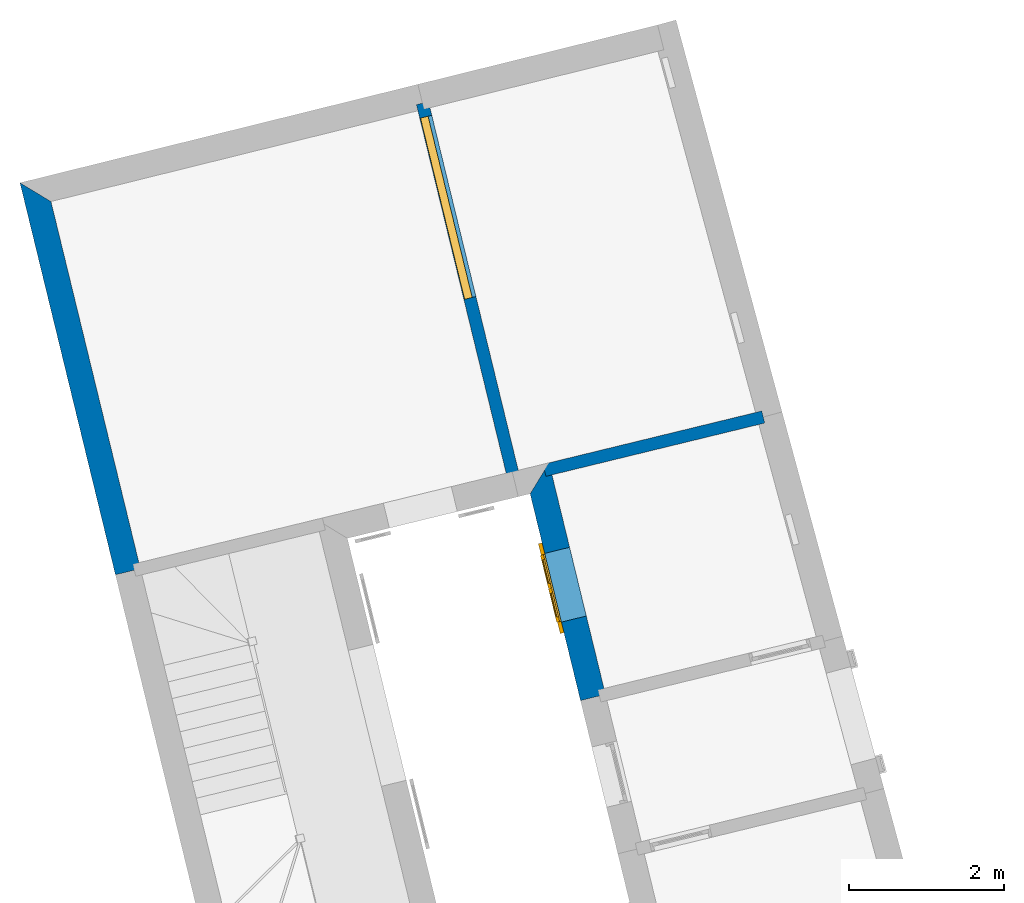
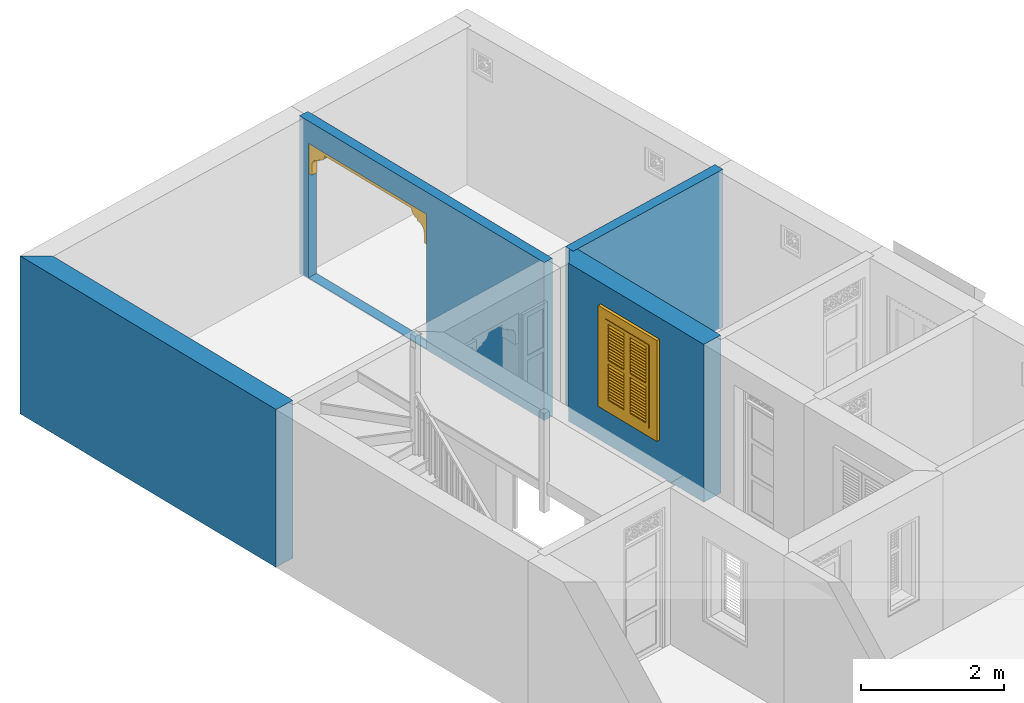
# One storey, part 11 of 15: 4 walls, 1 door, 1 window, 2 openings.
"""IFC4 building model written with IfcOpenShell, lengths in metres."""

from ifc_helpers import new_model, si_unit, frame, origin, origin_with_axes, place, context, subcontext, project, spatial, polyline, outline, extrude, faceted_brep, source, transform, mapped, material, layer, layer_set, layer_usage, type_object, type_shapes, element, fill, save


model = new_model("IFC4")

# Units and contexts
model_context = context("Model", 3, world=origin_with_axes())
body_context = subcontext(model_context, "Body", "Model", "MODEL_VIEW")
ifc_project = project(units=[si_unit("PLANEANGLEUNIT", "RADIAN"), si_unit("MASSUNIT", "GRAM", prefix="KILO"), si_unit("FORCEUNIT", "NEWTON", prefix="KILO"), si_unit("LENGTHUNIT", "METRE"), si_unit("AREAUNIT", "SQUARE_METRE"), si_unit("VOLUMEUNIT", "CUBIC_METRE")], contexts=[model_context, model_context])

# Site, building, storey
site_placement = place(None, origin_with_axes())
site = spatial("IfcSite", under=ifc_project, at=site_placement, Name="Site plot-4", CompositionType="ELEMENT")
building_placement = place(None, origin_with_axes())
building = spatial("IfcBuilding", under=site, at=building_placement, Name="Building plot-4", CompositionType="ELEMENT")
storey_placement = place(None, origin_with_axes())
storey = spatial("IfcBuildingStorey", under=building, at=storey_placement, Name="plot-4 0", CompositionType="ELEMENT", Elevation=0.0)

# Wall, opening, window
ifc_material_1 = material(Name="Masonry")
ifc_layer_1 = layer(ifc_material_1, 0.33, ventilated=False)
ifc_layer_set_1 = layer_set([ifc_layer_1], Name="exterior_0.08_0.25")
ifc_layer_usage_1 = layer_usage(ifc_layer_set_1, "AXIS2", "POSITIVE", -0.25)
wall_type_1 = type_object("IfcWallType", Name="exterior_0.08_0.25", PredefinedType="SOLIDWALL", material=ifc_layer_set_1)
wall_1_placement = place(storey_placement, frame((23.8026850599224, 15.7162538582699, 0.0), z_axis=(0.0, 0.0, 1.0), x_axis=(0.236608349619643, -0.971605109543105, 0.0)))
wall_1 = element("IfcWall", 1, at=wall_1_placement, inside=storey, type_object=wall_type_1, material=ifc_layer_usage_1, Name="exterior", context=body_context, shape_type="SweptSolid", body=[
    extrude(outline(polyline([(-0.0799999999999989, 0.0799999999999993), (0.250000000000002, -0.250000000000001), (2.98846501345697, -0.25), (2.98846501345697, 0.0800000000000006), (-0.0799999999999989, 0.0799999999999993)])), origin_with_axes(), (0.0, 0.0, 1.0), 2.7),
])
opening_1_placement = place(wall_1_placement, frame((1.03923250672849, 0.0, 0.75)))
opening_1 = element("IfcOpeningElement", 2, at=opening_1_placement, cuts=wall_1, Name="My Opening", ObjectType="Opening", context=body_context, shape_type="SweptSolid", body=[
    extrude(outline(polyline([(0.0, -0.270000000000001), (0.909999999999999, -0.269999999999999), (0.909999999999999, 1.1), (2.22044604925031e-16, 1.1), (0.0, -0.270000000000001)])), origin_with_axes(), (0.0, 0.0, 1.0), 1.445),
])
window_type = type_object("IfcWindowType", Name="shuttered_shorter", PartitioningType="DOUBLE_PANEL_HORIZONTAL", PredefinedType="NOTDEFINED")
shared_shape_1 = source(origin(), body_context, "Body", "Brep", [
    faceted_brep([(0.393, 0.0, 0.622), (0.074, 0.0, 0.622), (0.074, 0.0, 0.632), (0.393, 0.0, 0.632), (0.074, -0.04, 0.592), (0.393, -0.04, 0.592), (0.393, -0.04, 0.582), (0.074, -0.04, 0.582), (0.517, 0.0, 0.682), (0.836, 0.0, 0.682), (0.836, 0.0, 0.672), (0.517, 0.0, 0.672), (0.517, -0.04, 0.642), (0.836, -0.04, 0.642), (0.836, -0.04, 0.632), (0.517, -0.04, 0.632), (0.517, 0.0, 0.632), (0.836, 0.0, 0.632), (0.836, 0.0, 0.622), (0.517, 0.0, 0.622), (0.517, -0.04, 0.592), (0.836, -0.04, 0.592), (0.836, -0.04, 0.582), (0.517, -0.04, 0.582), (0.517, 0.0, 0.232), (0.836, 0.0, 0.232), (0.836, 0.0, 0.222), (0.517, 0.0, 0.222), (0.517, -0.04, 0.192), (0.836, -0.04, 0.192), (0.836, -0.04, 0.182), (0.517, -0.04, 0.182), (0.517, 0.0, 0.532), (0.836, 0.0, 0.532), (0.836, 0.0, 0.522), (0.517, 0.0, 0.522), (0.517, -0.04, 0.492), (0.836, -0.04, 0.492), (0.836, -0.04, 0.482), (0.517, -0.04, 0.482), (0.517, 0.0, 0.482), (0.836, 0.0, 0.482), (0.836, 0.0, 0.472), (0.517, 0.0, 0.472), (0.517, -0.04, 0.442), (0.836, -0.04, 0.442), (0.836, -0.04, 0.432), (0.517, -0.04, 0.432), (0.517, 0.0, 0.582), (0.836, 0.0, 0.582), (0.836, 0.0, 0.572), (0.517, 0.0, 0.572), (0.517, -0.04, 0.542), (0.836, -0.04, 0.542), (0.836, -0.04, 0.532), (0.517, -0.04, 0.532), (0.517, 0.0, 0.182), (0.836, 0.0, 0.182), (0.836, 0.0, 0.172), (0.517, 0.0, 0.172), (0.517, -0.04, 0.142), (0.836, -0.04, 0.142), (0.836, -0.04, 0.132), (0.517, -0.04, 0.132), (0.517, 0.0, 0.382), (0.836, 0.0, 0.382), (0.836, 0.0, 0.372), (0.517, 0.0, 0.372), (0.517, -0.04, 0.342), (0.836, -0.04, 0.342), (0.836, -0.04, 0.332), (0.517, -0.04, 0.332), (0.517, 0.0, 0.432), (0.836, 0.0, 0.432), (0.836, 0.0, 0.422), (0.517, 0.0, 0.422), (0.517, -0.04, 0.392), (0.836, -0.04, 0.392), (0.836, -0.04, 0.382), (0.517, -0.04, 0.382), (0.517, 0.0, 0.132), (0.836, 0.0, 0.132), (0.836, 0.0, 0.122), (0.517, 0.0, 0.122), (0.517, -0.04, 0.092), (0.836, -0.04, 0.092), (0.836, -0.04, 0.082), (0.517, -0.04, 0.082), (0.517, 0.0, 0.282), (0.836, 0.0, 0.282), (0.836, 0.0, 0.272), (0.517, 0.0, 0.272), (0.517, -0.04, 0.242), (0.836, -0.04, 0.242), (0.836, -0.04, 0.232), (0.517, -0.04, 0.232), (0.517, 0.0, 0.332), (0.836, 0.0, 0.332), (0.836, 0.0, 0.322), (0.517, 0.0, 0.322), (0.517, -0.04, 0.292), (0.836, -0.04, 0.292), (0.836, -0.04, 0.282), (0.517, -0.04, 0.282), (0.517, 0.0, 1.362667), (0.836, 0.0, 1.362667), (0.836, 0.0, 1.352667), (0.517, 0.0, 1.352667), (0.517, -0.04, 1.322667), (0.836, -0.04, 1.322667), (0.836, -0.04, 1.312667), (0.517, -0.04, 1.312667), (0.517, 0.0, 1.312667), (0.836, 0.0, 1.312667), (0.836, 0.0, 1.302667), (0.517, 0.0, 1.302667), (0.517, -0.04, 1.272667), (0.836, -0.04, 1.272667), (0.836, -0.04, 1.262667), (0.517, -0.04, 1.262667), (0.517, 0.0, 0.912667), (0.836, 0.0, 0.912667), (0.836, 0.0, 0.902667), (0.517, 0.0, 0.902667), (0.517, -0.04, 0.872667), (0.836, -0.04, 0.872667), (0.836, -0.04, 0.862667), (0.517, -0.04, 0.862667), (0.517, 0.0, 1.212667), (0.836, 0.0, 1.212667), (0.836, 0.0, 1.202667), (0.517, 0.0, 1.202667), (0.517, -0.04, 1.172667), (0.836, -0.04, 1.172667), (0.836, -0.04, 1.162667), (0.517, -0.04, 1.162667), (0.517, 0.0, 1.162667), (0.836, 0.0, 1.162667), (0.836, 0.0, 1.152667), (0.517, 0.0, 1.152667), (0.517, -0.04, 1.122667), (0.836, -0.04, 1.122667), (0.836, -0.04, 1.112667), (0.517, -0.04, 1.112667), (0.517, 0.0, 1.262667), (0.836, 0.0, 1.262667), (0.836, 0.0, 1.252667), (0.517, 0.0, 1.252667), (0.517, -0.04, 1.222667), (0.836, -0.04, 1.222667), (0.836, -0.04, 1.212667), (0.517, -0.04, 1.212667), (0.517, 0.0, 0.862667), (0.836, 0.0, 0.862667), (0.836, 0.0, 0.852667), (0.517, 0.0, 0.852667), (0.517, -0.04, 0.822667), (0.836, -0.04, 0.822667), (0.836, -0.04, 0.812667), (0.517, -0.04, 0.812667), (0.517, 0.0, 1.062667), (0.836, 0.0, 1.062667), (0.836, 0.0, 1.052667), (0.517, 0.0, 1.052667), (0.517, -0.04, 1.022667), (0.836, -0.04, 1.022667), (0.836, -0.04, 1.012667), (0.517, -0.04, 1.012667), (0.517, 0.0, 1.112667), (0.836, 0.0, 1.112667), (0.836, 0.0, 1.102667), (0.517, 0.0, 1.102667), (0.517, -0.04, 1.072667), (0.836, -0.04, 1.072667), (0.836, -0.04, 1.062667), (0.517, -0.04, 1.062667), (0.517, 0.0, 0.812667), (0.836, 0.0, 0.812667), (0.836, 0.0, 0.802667), (0.517, 0.0, 0.802667), (0.517, -0.04, 0.772667), (0.836, -0.04, 0.772667), (0.836, -0.04, 0.762667), (0.517, -0.04, 0.762667), (0.517, 0.0, 0.962667), (0.836, 0.0, 0.962667), (0.836, 0.0, 0.952667), (0.517, 0.0, 0.952667), (0.517, -0.04, 0.922667), (0.836, -0.04, 0.922667), (0.836, -0.04, 0.912667), (0.517, -0.04, 0.912667), (0.517, 0.0, 1.012667), (0.836, 0.0, 1.012667), (0.836, 0.0, 1.002667), (0.517, 0.0, 1.002667), (0.517, -0.04, 0.972667), (0.836, -0.04, 0.972667), (0.836, -0.04, 0.962667), (0.517, -0.04, 0.962667), (0.074, 0.0, 0.682), (0.393, 0.0, 0.682), (0.393, 0.0, 0.672), (0.074, 0.0, 0.672), (0.074, -0.04, 0.642), (0.393, -0.04, 0.642), (0.393, -0.04, 0.632), (0.074, -0.04, 0.632), (0.074, 0.0, 0.232), (0.393, 0.0, 0.232), (0.393, 0.0, 0.222), (0.074, 0.0, 0.222), (0.074, -0.04, 0.192), (0.393, -0.04, 0.192), (0.393, -0.04, 0.182), (0.074, -0.04, 0.182), (0.074, 0.0, 0.532), (0.393, 0.0, 0.532), (0.393, 0.0, 0.522), (0.074, 0.0, 0.522), (0.074, -0.04, 0.492), (0.393, -0.04, 0.492), (0.393, -0.04, 0.482), (0.074, -0.04, 0.482), (0.074, 0.0, 0.482), (0.393, 0.0, 0.482), (0.393, 0.0, 0.472), (0.074, 0.0, 0.472), (0.074, -0.04, 0.442), (0.393, -0.04, 0.442), (0.393, -0.04, 0.432), (0.074, -0.04, 0.432), (0.074, 0.0, 0.582), (0.393, 0.0, 0.582), (0.393, 0.0, 0.572), (0.074, 0.0, 0.572), (0.074, -0.04, 0.542), (0.393, -0.04, 0.542), (0.393, -0.04, 0.532), (0.074, -0.04, 0.532), (0.074, 0.0, 0.182), (0.393, 0.0, 0.182), (0.393, 0.0, 0.172), (0.074, 0.0, 0.172), (0.074, -0.04, 0.142), (0.393, -0.04, 0.142), (0.393, -0.04, 0.132), (0.074, -0.04, 0.132), (0.074, 0.0, 0.382), (0.393, 0.0, 0.382), (0.393, 0.0, 0.372), (0.074, 0.0, 0.372), (0.074, -0.04, 0.342), (0.393, -0.04, 0.342), (0.393, -0.04, 0.332), (0.074, -0.04, 0.332), (0.074, 0.0, 0.432), (0.393, 0.0, 0.432), (0.393, 0.0, 0.422), (0.074, 0.0, 0.422), (0.074, -0.04, 0.392), (0.393, -0.04, 0.392), (0.393, -0.04, 0.382), (0.074, -0.04, 0.382), (0.074, 0.0, 0.132), (0.393, 0.0, 0.132), (0.393, 0.0, 0.122), (0.074, 0.0, 0.122), (0.074, -0.04, 0.092), (0.393, -0.04, 0.092), (0.393, -0.04, 0.082), (0.074, -0.04, 0.082), (0.074, 0.0, 0.282), (0.393, 0.0, 0.282), (0.393, 0.0, 0.272), (0.074, 0.0, 0.272), (0.074, -0.04, 0.242), (0.393, -0.04, 0.242), (0.393, -0.04, 0.232), (0.074, -0.04, 0.232), (0.074, 0.0, 0.332), (0.393, 0.0, 0.332), (0.393, 0.0, 0.322), (0.074, 0.0, 0.322), (0.074, -0.04, 0.292), (0.393, -0.04, 0.292), (0.393, -0.04, 0.282), (0.074, -0.04, 0.282), (0.074, 0.0, 1.362667), (0.393, 0.0, 1.362667), (0.393, 0.0, 1.352667), (0.074, 0.0, 1.352667), (0.074, -0.04, 1.322667), (0.393, -0.04, 1.322667), (0.393, -0.04, 1.312667), (0.074, -0.04, 1.312667), (0.074, 0.0, 1.312667), (0.393, 0.0, 1.312667), (0.393, 0.0, 1.302667), (0.074, 0.0, 1.302667), (0.074, -0.04, 1.272667), (0.393, -0.04, 1.272667), (0.393, -0.04, 1.262667), (0.074, -0.04, 1.262667), (0.074, 0.0, 0.912667), (0.393, 0.0, 0.912667), (0.393, 0.0, 0.902667), (0.074, 0.0, 0.902667), (0.074, -0.04, 0.872667), (0.393, -0.04, 0.872667), (0.393, -0.04, 0.862667), (0.074, -0.04, 0.862667), (0.074, 0.0, 1.212667), (0.393, 0.0, 1.212667), (0.393, 0.0, 1.202667), (0.074, 0.0, 1.202667), (0.074, -0.04, 1.172667), (0.393, -0.04, 1.172667), (0.393, -0.04, 1.162667), (0.074, -0.04, 1.162667), (0.074, 0.0, 1.162667), (0.393, 0.0, 1.162667), (0.393, 0.0, 1.152667), (0.074, 0.0, 1.152667), (0.074, -0.04, 1.122667), (0.393, -0.04, 1.122667), (0.393, -0.04, 1.112667), (0.074, -0.04, 1.112667), (0.074, 0.0, 1.262667), (0.393, 0.0, 1.262667), (0.393, 0.0, 1.252667), (0.074, 0.0, 1.252667), (0.074, -0.04, 1.222667), (0.393, -0.04, 1.222667), (0.393, -0.04, 1.212667), (0.074, -0.04, 1.212667), (0.074, 0.0, 0.862667), (0.393, 0.0, 0.862667), (0.393, 0.0, 0.852667), (0.074, 0.0, 0.852667), (0.074, -0.04, 0.822667), (0.393, -0.04, 0.822667), (0.393, -0.04, 0.812667), (0.074, -0.04, 0.812667), (0.074, 0.0, 1.062667), (0.393, 0.0, 1.062667), (0.393, 0.0, 1.052667), (0.074, 0.0, 1.052667), (0.074, -0.04, 1.022667), (0.393, -0.04, 1.022667), (0.393, -0.04, 1.012667), (0.074, -0.04, 1.012667), (0.074, 0.0, 1.112667), (0.393, 0.0, 1.112667), (0.393, 0.0, 1.102667), (0.074, 0.0, 1.102667), (0.074, -0.04, 1.072667), (0.393, -0.04, 1.072667), (0.393, -0.04, 1.062667), (0.074, -0.04, 1.062667), (0.074, 0.0, 0.812667), (0.393, 0.0, 0.812667), (0.393, 0.0, 0.802667), (0.074, 0.0, 0.802667), (0.074, -0.04, 0.772667), (0.393, -0.04, 0.772667), (0.393, -0.04, 0.762667), (0.074, -0.04, 0.762667), (0.074, 0.0, 0.962667), (0.393, 0.0, 0.962667), (0.393, 0.0, 0.952667), (0.074, 0.0, 0.952667), (0.074, -0.04, 0.922667), (0.393, -0.04, 0.922667), (0.393, -0.04, 0.912667), (0.074, -0.04, 0.912667), (0.074, 0.0, 1.012667), (0.393, 0.0, 1.012667), (0.393, 0.0, 1.002667), (0.074, 0.0, 1.002667), (0.074, -0.04, 0.972667), (0.393, -0.04, 0.972667), (0.393, -0.04, 0.962667), (0.074, -0.04, 0.962667), (0.517, -0.04, 0.072), (0.457, -0.04, 0.012), (0.896, -0.04, 0.012), (0.836, -0.04, 0.072), (0.457, -0.04, 0.692667), (0.517, -0.04, 0.692667), (0.457, 0.0, 0.012), (0.896, 0.0, 0.012), (0.836, -0.04, 0.692667), (0.896, -0.04, 0.692667), (0.836, 0.0, 0.072), (0.517, 0.0, 0.072), (0.457, 0.0, 0.692667), (0.517, 0.0, 0.692667), (0.517, -0.04, 0.752666), (0.457, -0.04, 0.752666), (0.896, 0.0, 0.692667), (0.836, 0.0, 0.692667), (0.836, -0.04, 0.752666), (0.896, -0.04, 0.752666), (0.457, 0.0, 0.752666), (0.457, -0.04, 1.433333), (0.517, -0.04, 1.373333), (0.896, 0.0, 0.752666), (0.836, -0.04, 1.373333), (0.896, -0.04, 1.433333), (0.457, 0.0, 1.433333), (0.517, 0.0, 0.752666), (0.836, 0.0, 0.752666), (0.517, 0.0, 1.373333), (0.896, 0.0, 1.433333), (0.836, 0.0, 1.373333), (0.074, -0.04, 0.072), (0.014, -0.04, 0.012), (0.453, -0.04, 0.012), (0.393, -0.04, 0.072), (0.014, -0.04, 0.692667), (0.074, -0.04, 0.692667), (0.014, 0.0, 0.012), (0.453, 0.0, 0.012), (0.393, -0.04, 0.692667), (0.453, -0.04, 0.692667), (0.393, 0.0, 0.072), (0.074, 0.0, 0.072), (0.014, 0.0, 0.692667), (0.074, 0.0, 0.692667), (0.074, -0.04, 0.752666), (0.014, -0.04, 0.752666), (0.453, 0.0, 0.692667), (0.393, 0.0, 0.692667), (0.393, -0.04, 0.752666), (0.453, -0.04, 0.752666), (0.014, 0.0, 0.752666), (0.014, -0.04, 1.433333), (0.074, -0.04, 1.373333), (0.453, 0.0, 0.752666), (0.393, -0.04, 1.373333), (0.453, -0.04, 1.433333), (0.014, 0.0, 1.433333), (0.074, 0.0, 0.752666), (0.393, 0.0, 0.752666), (0.074, 0.0, 1.373333), (0.453, 0.0, 1.433333), (0.393, 0.0, 1.373333), (0.0, 0.33, 1.445), (0.91, 0.33, 1.445), (0.85, 0.33, 1.385), (0.06, 0.33, 1.385), (0.91, 0.25, 1.445), (0.0, 0.25, 1.445), (0.91, 0.25, 1.445), (0.85, 0.33, 0.06), (0.91, 0.33, 0.0), (0.85, 0.25, 1.385), (0.06, 0.25, 1.385), (0.0, 0.33, 0.0), (0.06, 0.33, 0.06), (0.0, 0.25, 0.0), (0.91, 0.25, 0.0), (0.85, 0.25, 0.06), (0.06, 0.25, 0.06), (1.05, 0.25, 1.585), (-0.14, 0.25, 1.585), (-0.14, -0.03, 1.585), (1.05, -0.03, 1.585), (0.9, -0.03, 1.435), (0.01, -0.03, 1.435), (0.01, 0.25, 1.435), (0.9, 0.25, 1.435), (0.9, 0.25, 0.01), (0.9, -0.03, 0.01), (1.05, -0.03, -0.14), (1.05, 0.25, -0.14), (0.01, -0.03, 0.01), (0.01, 0.25, 0.01), (-0.14, -0.03, -0.14), (-0.14, 0.25, -0.14)], [[[0, 1, 2, 3]], [[4, 5, 3, 2]], [[5, 6, 0, 3]], [[1, 0, 6, 7]], [[2, 1, 7, 4]], [[5, 4, 7, 6]], [[8, 9, 10, 11]], [[12, 13, 9, 8]], [[13, 14, 10, 9]], [[14, 15, 11, 10]], [[15, 12, 8, 11]], [[13, 12, 15, 14]], [[16, 17, 18, 19]], [[20, 21, 17, 16]], [[21, 22, 18, 17]], [[22, 23, 19, 18]], [[23, 20, 16, 19]], [[21, 20, 23, 22]], [[24, 25, 26, 27]], [[28, 29, 25, 24]], [[29, 30, 26, 25]], [[30, 31, 27, 26]], [[31, 28, 24, 27]], [[29, 28, 31, 30]], [[32, 33, 34, 35]], [[36, 37, 33, 32]], [[37, 38, 34, 33]], [[38, 39, 35, 34]], [[39, 36, 32, 35]], [[37, 36, 39, 38]], [[40, 41, 42, 43]], [[44, 45, 41, 40]], [[45, 46, 42, 41]], [[46, 47, 43, 42]], [[47, 44, 40, 43]], [[45, 44, 47, 46]], [[48, 49, 50, 51]], [[52, 53, 49, 48]], [[53, 54, 50, 49]], [[54, 55, 51, 50]], [[55, 52, 48, 51]], [[53, 52, 55, 54]], [[56, 57, 58, 59]], [[60, 61, 57, 56]], [[61, 62, 58, 57]], [[62, 63, 59, 58]], [[63, 60, 56, 59]], [[61, 60, 63, 62]], [[64, 65, 66, 67]], [[68, 69, 65, 64]], [[69, 70, 66, 65]], [[70, 71, 67, 66]], [[71, 68, 64, 67]], [[69, 68, 71, 70]], [[72, 73, 74, 75]], [[76, 77, 73, 72]], [[77, 78, 74, 73]], [[78, 79, 75, 74]], [[79, 76, 72, 75]], [[77, 76, 79, 78]], [[80, 81, 82, 83]], [[84, 85, 81, 80]], [[85, 86, 82, 81]], [[86, 87, 83, 82]], [[87, 84, 80, 83]], [[85, 84, 87, 86]], [[88, 89, 90, 91]], [[92, 93, 89, 88]], [[93, 94, 90, 89]], [[94, 95, 91, 90]], [[95, 92, 88, 91]], [[93, 92, 95, 94]], [[96, 97, 98, 99]], [[100, 101, 97, 96]], [[101, 102, 98, 97]], [[102, 103, 99, 98]], [[103, 100, 96, 99]], [[101, 100, 103, 102]], [[104, 105, 106, 107]], [[108, 109, 105, 104]], [[109, 110, 106, 105]], [[110, 111, 107, 106]], [[111, 108, 104, 107]], [[109, 108, 111, 110]], [[112, 113, 114, 115]], [[116, 117, 113, 112]], [[117, 118, 114, 113]], [[118, 119, 115, 114]], [[119, 116, 112, 115]], [[117, 116, 119, 118]], [[120, 121, 122, 123]], [[124, 125, 121, 120]], [[125, 126, 122, 121]], [[126, 127, 123, 122]], [[127, 124, 120, 123]], [[125, 124, 127, 126]], [[128, 129, 130, 131]], [[132, 133, 129, 128]], [[133, 134, 130, 129]], [[134, 135, 131, 130]], [[135, 132, 128, 131]], [[133, 132, 135, 134]], [[136, 137, 138, 139]], [[140, 141, 137, 136]], [[141, 142, 138, 137]], [[142, 143, 139, 138]], [[139, 143, 140, 136]], [[141, 140, 143, 142]], [[144, 145, 146, 147]], [[148, 149, 145, 144]], [[149, 150, 146, 145]], [[150, 151, 147, 146]], [[151, 148, 144, 147]], [[149, 148, 151, 150]], [[152, 153, 154, 155]], [[156, 157, 153, 152]], [[157, 158, 154, 153]], [[158, 159, 155, 154]], [[159, 156, 152, 155]], [[157, 156, 159, 158]], [[160, 161, 162, 163]], [[164, 165, 161, 160]], [[165, 166, 162, 161]], [[166, 167, 163, 162]], [[167, 164, 160, 163]], [[165, 164, 167, 166]], [[168, 169, 170, 171]], [[172, 173, 169, 168]], [[173, 174, 170, 169]], [[174, 175, 171, 170]], [[175, 172, 168, 171]], [[173, 172, 175, 174]], [[176, 177, 178, 179]], [[180, 181, 177, 176]], [[181, 182, 178, 177]], [[182, 183, 179, 178]], [[183, 180, 176, 179]], [[181, 180, 183, 182]], [[184, 185, 186, 187]], [[188, 189, 185, 184]], [[189, 190, 186, 185]], [[190, 191, 187, 186]], [[191, 188, 184, 187]], [[189, 188, 191, 190]], [[192, 193, 194, 195]], [[196, 197, 193, 192]], [[197, 198, 194, 193]], [[198, 199, 195, 194]], [[199, 196, 192, 195]], [[197, 196, 199, 198]], [[200, 201, 202, 203]], [[204, 205, 201, 200]], [[205, 206, 202, 201]], [[206, 207, 203, 202]], [[207, 204, 200, 203]], [[205, 204, 207, 206]], [[208, 209, 210, 211]], [[212, 213, 209, 208]], [[213, 214, 210, 209]], [[214, 215, 211, 210]], [[215, 212, 208, 211]], [[213, 212, 215, 214]], [[216, 217, 218, 219]], [[220, 221, 217, 216]], [[221, 222, 218, 217]], [[222, 223, 219, 218]], [[223, 220, 216, 219]], [[221, 220, 223, 222]], [[224, 225, 226, 227]], [[228, 229, 225, 224]], [[229, 230, 226, 225]], [[230, 231, 227, 226]], [[231, 228, 224, 227]], [[229, 228, 231, 230]], [[232, 233, 234, 235]], [[236, 237, 233, 232]], [[237, 238, 234, 233]], [[238, 239, 235, 234]], [[239, 236, 232, 235]], [[237, 236, 239, 238]], [[240, 241, 242, 243]], [[244, 245, 241, 240]], [[245, 246, 242, 241]], [[246, 247, 243, 242]], [[247, 244, 240, 243]], [[245, 244, 247, 246]], [[248, 249, 250, 251]], [[252, 253, 249, 248]], [[253, 254, 250, 249]], [[254, 255, 251, 250]], [[255, 252, 248, 251]], [[253, 252, 255, 254]], [[256, 257, 258, 259]], [[260, 261, 257, 256]], [[261, 262, 258, 257]], [[262, 263, 259, 258]], [[263, 260, 256, 259]], [[261, 260, 263, 262]], [[264, 265, 266, 267]], [[268, 269, 265, 264]], [[269, 270, 266, 265]], [[270, 271, 267, 266]], [[271, 268, 264, 267]], [[269, 268, 271, 270]], [[272, 273, 274, 275]], [[276, 277, 273, 272]], [[277, 278, 274, 273]], [[278, 279, 275, 274]], [[279, 276, 272, 275]], [[277, 276, 279, 278]], [[280, 281, 282, 283]], [[284, 285, 281, 280]], [[285, 286, 282, 281]], [[286, 287, 283, 282]], [[287, 284, 280, 283]], [[285, 284, 287, 286]], [[288, 289, 290, 291]], [[292, 293, 289, 288]], [[293, 294, 290, 289]], [[294, 295, 291, 290]], [[295, 292, 288, 291]], [[293, 292, 295, 294]], [[296, 297, 298, 299]], [[300, 301, 297, 296]], [[301, 302, 298, 297]], [[302, 303, 299, 298]], [[303, 300, 296, 299]], [[301, 300, 303, 302]], [[304, 305, 306, 307]], [[308, 309, 305, 304]], [[309, 310, 306, 305]], [[310, 311, 307, 306]], [[311, 308, 304, 307]], [[309, 308, 311, 310]], [[312, 313, 314, 315]], [[316, 317, 313, 312]], [[317, 318, 314, 313]], [[318, 319, 315, 314]], [[319, 316, 312, 315]], [[317, 316, 319, 318]], [[320, 321, 322, 323]], [[324, 325, 321, 320]], [[325, 326, 322, 321]], [[326, 327, 323, 322]], [[327, 324, 320, 323]], [[325, 324, 327, 326]], [[328, 329, 330, 331]], [[332, 333, 329, 328]], [[333, 334, 330, 329]], [[334, 335, 331, 330]], [[335, 332, 328, 331]], [[333, 332, 335, 334]], [[336, 337, 338, 339]], [[340, 341, 337, 336]], [[341, 342, 338, 337]], [[342, 343, 339, 338]], [[343, 340, 336, 339]], [[341, 340, 343, 342]], [[344, 345, 346, 347]], [[348, 349, 345, 344]], [[349, 350, 346, 345]], [[350, 351, 347, 346]], [[351, 348, 344, 347]], [[349, 348, 351, 350]], [[352, 353, 354, 355]], [[356, 357, 353, 352]], [[357, 358, 354, 353]], [[358, 359, 355, 354]], [[359, 356, 352, 355]], [[357, 356, 359, 358]], [[360, 361, 362, 363]], [[364, 365, 361, 360]], [[365, 366, 362, 361]], [[366, 367, 363, 362]], [[367, 364, 360, 363]], [[365, 364, 367, 366]], [[368, 369, 370, 371]], [[372, 373, 369, 368]], [[373, 374, 370, 369]], [[374, 375, 371, 370]], [[375, 372, 368, 371]], [[373, 372, 375, 374]], [[376, 377, 378, 379]], [[380, 381, 377, 376]], [[381, 382, 378, 377]], [[382, 383, 379, 378]], [[383, 380, 376, 379]], [[381, 380, 383, 382]], [[384, 385, 386, 387]], [[388, 385, 384, 389]], [[390, 391, 386, 385]], [[392, 387, 386, 393]], [[384, 387, 394, 395]], [[390, 385, 388, 396]], [[389, 384, 395, 397]], [[389, 398, 399, 388]], [[390, 395, 394, 391]], [[400, 393, 386, 391]], [[387, 392, 401, 394]], [[402, 392, 393, 403]], [[396, 388, 399, 404]], [[390, 396, 397, 395]], [[392, 389, 397, 401]], [[398, 389, 392, 402]], [[405, 399, 398, 406]], [[394, 401, 400, 391]], [[407, 403, 393, 400]], [[408, 402, 403, 409]], [[404, 399, 405, 410]], [[411, 397, 396, 404]], [[397, 411, 412, 401]], [[398, 402, 412, 411]], [[406, 398, 411, 413]], [[405, 406, 408, 409]], [[401, 412, 407, 400]], [[414, 409, 403, 407]], [[402, 408, 415, 412]], [[405, 409, 414, 410]], [[404, 410, 413, 411]], [[408, 406, 413, 415]], [[412, 415, 414, 407]], [[413, 410, 414, 415]], [[416, 417, 418, 419]], [[420, 417, 416, 421]], [[422, 423, 418, 417]], [[424, 419, 418, 425]], [[416, 419, 426, 427]], [[422, 417, 420, 428]], [[421, 416, 427, 429]], [[421, 430, 431, 420]], [[422, 427, 426, 423]], [[432, 425, 418, 423]], [[419, 424, 433, 426]], [[434, 424, 425, 435]], [[428, 420, 431, 436]], [[422, 428, 429, 427]], [[424, 421, 429, 433]], [[430, 421, 424, 434]], [[437, 431, 430, 438]], [[426, 433, 432, 423]], [[439, 435, 425, 432]], [[440, 434, 435, 441]], [[436, 431, 437, 442]], [[443, 429, 428, 436]], [[429, 443, 444, 433]], [[430, 434, 444, 443]], [[438, 430, 443, 445]], [[437, 438, 440, 441]], [[433, 444, 439, 432]], [[446, 441, 435, 439]], [[434, 440, 447, 444]], [[437, 441, 446, 442]], [[436, 442, 445, 443]], [[440, 438, 445, 447]], [[444, 447, 446, 439]], [[445, 442, 446, 447]], [[448, 449, 450, 451]], [[452, 449, 448]], [[448, 453, 454]], [[448, 454, 452]], [[455, 450, 449, 456]], [[451, 450, 457, 458]], [[459, 448, 451, 460]], [[448, 459, 461, 453]], [[454, 453, 458, 457]], [[462, 452, 454]], [[454, 457, 463]], [[454, 463, 462]], [[456, 449, 452, 462]], [[450, 455, 463, 457]], [[456, 459, 460, 455]], [[460, 451, 458, 464]], [[459, 456, 462, 461]], [[464, 458, 453, 461]], [[461, 462, 463, 464]], [[455, 460, 464, 463]], [[465, 466, 467, 468]], [[469, 470, 471, 472]], [[473, 474, 469, 472]], [[465, 468, 475, 476]], [[470, 477, 478, 471]], [[474, 473, 478, 477]], [[474, 477, 479, 475]], [[470, 467, 479, 477]], [[470, 469, 468, 467]], [[474, 475, 468, 469]], [[471, 478, 480, 466]], [[473, 472, 465, 476]], [[473, 476, 480, 478]], [[466, 465, 472, 471]], [[480, 476, 475, 479]], [[480, 479, 467, 466]]]),
])
type_shapes(window_type, [shared_shape_1])
window_placement = place(storey_placement, frame((23.7862427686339, 14.6426459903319, 0.75), z_axis=(0.0, 0.0, 1.0), x_axis=(0.215313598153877, -0.884160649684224, 0.0)))
window = element("IfcWindow", 3, at=window_placement, inside=storey, type_object=window_type, Name="toilet sahn window", OverallHeight=1.445, OverallWidth=0.91, context=body_context, shape_type="MappedRepresentation", body=[
    mapped(shared_shape_1, transform((0.0, 0.0, 0.0), scale=1.0)),
])
fill(opening_1, window)

# Walls
ifc_material_2 = material(Name="Masonry")
ifc_layer_2 = layer(ifc_material_2, 0.33, ventilated=False)
ifc_layer_set_2 = layer_set([ifc_layer_2], Name="party_0.08_0.25")
ifc_layer_usage_2 = layer_usage(ifc_layer_set_2, "AXIS2", "POSITIVE", -0.25)
wall_type_2 = type_object("IfcWallType", Name="party_0.08_0.25", PredefinedType="SOLIDWALL", material=ifc_layer_set_2)
wall_2_placement = place(storey_placement, frame((17.3563135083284, 19.233189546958, 0.0), z_axis=(0.0, 0.0, 1.0), x_axis=(0.236608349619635, -0.971605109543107, 0.0)))
element("IfcWall", 4, at=wall_2_placement, inside=storey, type_object=wall_type_2, material=ifc_layer_usage_2, Name="party", context=body_context, shape_type="SweptSolid", body=[
    extrude(outline(polyline([(0.0797005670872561, 0.0800000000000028), (-0.249064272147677, -0.250000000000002), (4.94233801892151, -0.25), (4.94233801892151, 0.0799999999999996), (0.0797005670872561, 0.0800000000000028)])), origin_with_axes(), (0.0, 0.0, 1.0), 2.7),
])
ifc_material_3 = material(Name="Masonry")
ifc_layer_3 = layer(ifc_material_3, 0.16, ventilated=False)
ifc_layer_set_3 = layer_set([ifc_layer_3], Name="interior_0.08_0.08")
ifc_layer_usage_3 = layer_usage(ifc_layer_set_3, "AXIS2", "POSITIVE", -0.08)
wall_type_3 = type_object("IfcWallType", Name="interior_0.08_0.08", PredefinedType="SOLIDWALL", material=ifc_layer_set_3)
wall_3_placement = place(storey_placement, frame((26.6183209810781, 16.4019264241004, 0.0), z_axis=(0.0, 0.0, 1.0), x_axis=(-0.971605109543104, -0.236608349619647, 0.0)))
element("IfcWall", 5, at=wall_3_placement, inside=storey, type_object=wall_type_3, material=ifc_layer_usage_3, Name="interior", context=body_context, shape_type="SweptSolid", body=[
    extrude(outline(polyline([(-1.56804308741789e-16, 0.0800000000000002), (1.64770702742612e-16, -0.0800000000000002), (2.8979221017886, -0.0800000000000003), (2.8979221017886, 0.0800000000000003), (-1.56804308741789e-16, 0.0800000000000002)])), origin_with_axes(), (0.0, 0.0, 1.0), 2.7),
])

# Wall, opening, door
wall_4_placement = place(storey_placement, frame((22.2331143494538, 20.4401934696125, 0.0), z_axis=(0.0, 0.0, 1.0), x_axis=(0.236608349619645, -0.971605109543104, 0.0)))
wall_4 = element("IfcWall", 6, at=wall_4_placement, inside=storey, type_object=wall_type_3, material=ifc_layer_usage_3, Name="interior", context=body_context, shape_type="SweptSolid", body=[
    extrude(outline(polyline([(-3.14845643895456e-16, 0.0800000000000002), (2.69521332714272e-16, -0.0800000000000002), (4.96117739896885, -0.0800000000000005), (4.96117739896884, 0.0799999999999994), (-3.14845643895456e-16, 0.0800000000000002)])), origin_with_axes(), (0.0, 0.0, 1.0), 2.7),
])
opening_2_placement = place(wall_4_placement, frame((0.180000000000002, 0.0, 0.02)))
opening_2 = element("IfcOpeningElement", 7, at=opening_2_placement, cuts=wall_4, Name="My Opening", ObjectType="Opening", context=body_context, shape_type="SweptSolid", body=[
    extrude(outline(polyline([(0.0, -0.0999999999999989), (2.4, -0.099999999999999), (2.4, 1.1), (-1.22124532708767e-15, 1.1), (0.0, -0.0999999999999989)])), origin_with_axes(), (0.0, 0.0, 1.0), 2.3),
])
door_type = type_object("IfcDoorType", Name="arch-2400x2300-thin", OperationType="SINGLE_SWING_LEFT", PredefinedType="NOTDEFINED")
shared_shape_2 = source(origin(), body_context, "Body", "Brep", [
    faceted_brep([(2.4, 0.03, 1.78), (2.4, 0.03, 1.95), (2.34, 0.03, 1.95), (2.34, 0.03, 1.78), (2.34, 0.13, 1.95), (2.34, 0.13, 1.78), (2.4, 0.03, 2.12), (2.329, 0.03, 2.004), (2.4, 0.13, 1.78), (2.4, 0.13, 1.95), (2.329, 0.13, 2.004), (2.299, 0.03, 2.049), (2.4, 0.13, 2.12), (2.299, 0.13, 2.049), (2.254, 0.03, 2.079), (2.4, 0.13, 2.29), (2.4, 0.03, 2.29), (2.254, 0.13, 2.079), (2.2, 0.03, 2.09), (2.2, 0.03, 2.12), (2.154, 0.03, 2.129), (2.08, 0.13, 2.29), (2.08, 0.03, 2.29), (2.2, 0.13, 2.12), (2.154, 0.13, 2.129), (2.2, 0.13, 2.09), (2.115, 0.03, 2.155), (2.089, 0.13, 2.194), (2.08, 0.13, 2.24), (2.08, 0.03, 2.24), (2.089, 0.03, 2.194), (2.115, 0.13, 2.155), (0.06, 0.03, 1.78), (0.06, 0.03, 1.95), (0.0, 0.03, 1.95), (0.0, 0.03, 1.78), (0.06, 0.13, 1.78), (0.06, 0.13, 1.95), (0.071, 0.03, 2.004), (0.0, 0.03, 2.12), (0.0, 0.13, 1.95), (0.0, 0.13, 1.78), (0.071, 0.13, 2.004), (0.101, 0.03, 2.049), (0.0, 0.13, 2.12), (0.101, 0.13, 2.049), (0.146, 0.03, 2.079), (0.0, 0.03, 2.29), (0.0, 0.13, 2.29), (0.146, 0.13, 2.079), (0.2, 0.03, 2.12), (0.2, 0.03, 2.09), (0.246, 0.03, 2.129), (0.32, 0.03, 2.29), (0.32, 0.13, 2.29), (0.246, 0.13, 2.129), (0.2, 0.13, 2.12), (0.2, 0.13, 2.09), (0.285, 0.03, 2.155), (0.32, 0.13, 2.24), (0.311, 0.13, 2.194), (0.311, 0.03, 2.194), (0.32, 0.03, 2.24), (0.285, 0.13, 2.155)], [[[0, 1, 2, 3]], [[4, 5, 3, 2]], [[1, 6, 7, 2]], [[1, 0, 8, 9]], [[5, 8, 0, 3]], [[5, 4, 9, 8]], [[10, 4, 2, 7]], [[6, 11, 7]], [[6, 1, 9, 12]], [[4, 10, 12, 9]], [[13, 10, 7, 11]], [[6, 14, 11]], [[12, 15, 16, 6]], [[12, 10, 13]], [[17, 13, 11, 14]], [[18, 14, 6, 19]], [[6, 16, 20, 19]], [[16, 15, 21, 22]], [[23, 24, 15, 12]], [[12, 13, 17]], [[25, 17, 14, 18]], [[23, 25, 18, 19]], [[24, 23, 19, 20]], [[16, 26, 20]], [[15, 27, 28, 21]], [[16, 22, 29, 30]], [[31, 15, 24]], [[23, 12, 17, 25]], [[31, 24, 20, 26]], [[16, 30, 26]], [[28, 27, 30, 29]], [[27, 15, 31]], [[27, 31, 26, 30]], [[32, 33, 34, 35]], [[33, 32, 36, 37]], [[33, 38, 39, 34]], [[35, 34, 40, 41]], [[32, 35, 41, 36]], [[41, 40, 37, 36]], [[38, 33, 37, 42]], [[38, 43, 39]], [[44, 40, 34, 39]], [[40, 44, 42, 37]], [[43, 38, 42, 45]], [[43, 46, 39]], [[39, 47, 48, 44]], [[45, 42, 44]], [[46, 43, 45, 49]], [[50, 39, 46, 51]], [[50, 52, 47, 39]], [[53, 54, 48, 47]], [[44, 48, 55, 56]], [[49, 45, 44]], [[51, 46, 49, 57]], [[50, 51, 57, 56]], [[52, 50, 56, 55]], [[52, 58, 47]], [[54, 59, 60, 48]], [[61, 62, 53, 47]], [[55, 48, 63]], [[57, 49, 44, 56]], [[58, 52, 55, 63]], [[58, 61, 47]], [[62, 61, 60, 59]], [[63, 48, 60]], [[61, 58, 63, 60]], [[62, 59, 28, 29]], [[59, 54, 21, 28]], [[53, 62, 29, 22]], [[54, 53, 22, 21]]]),
])
type_shapes(door_type, [shared_shape_2])
door_placement = place(storey_placement, frame((22.178543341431, 20.2416437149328, 0.02), z_axis=(0.0, 0.0, 1.0), x_axis=(0.567860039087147, -2.33185226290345, 0.0)))
door = element("IfcDoor", 8, at=door_placement, inside=storey, type_object=door_type, Name="kitchen living inside door", OverallHeight=2.3, OverallWidth=2.4, context=body_context, shape_type="MappedRepresentation", body=[
    mapped(shared_shape_2, transform((0.0, 0.0, 0.0), scale=1.0)),
])
fill(opening_2, door)

save(model, "model.ifc")
